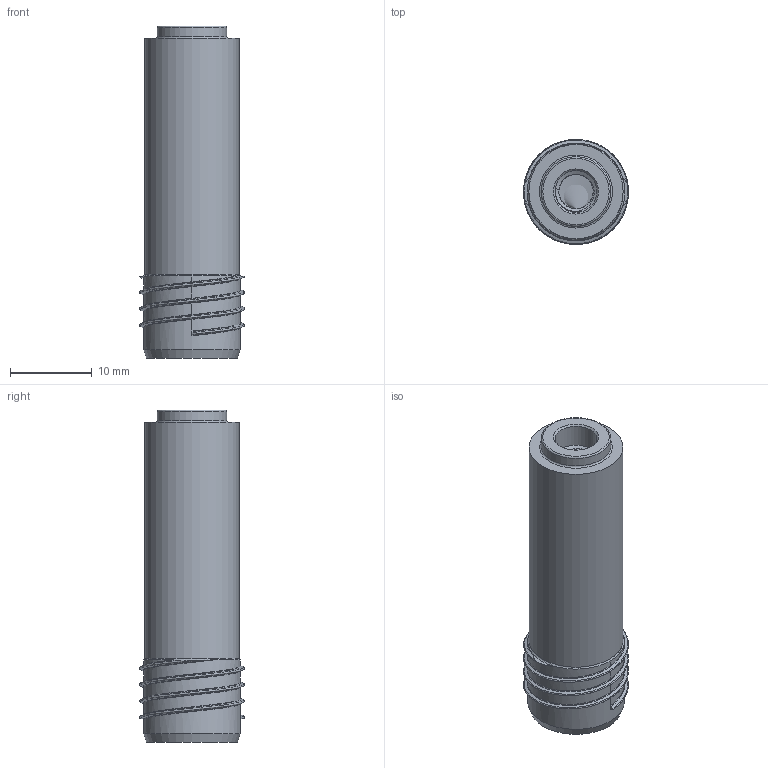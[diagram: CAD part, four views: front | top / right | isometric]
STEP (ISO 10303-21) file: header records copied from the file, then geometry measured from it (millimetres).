
FILE_DESCRIPTION(/* description */ (''),/* implementation_level */ '2;1');
FILE_NAME(/* name */ 'C:\Users\matthiask.LAMELLONET\Desktop\Invis_Mx2_Mittelwandbolzen_10-30mm.stp',/* time_stamp */ '2021-07-08T09:51:55+02:00',/* author */ ('matthiask'),/* organization */ (''),/* preprocessor_version */ 'ST-DEVELOPER v18',/* originating_system */ 'Autodesk Inventor 2020',/* authorisation */ '');
FILE_SCHEMA (('AUTOMOTIVE_DESIGN { 1 0 10303 214 3 1 1 }'));
Length unit declared in the file: millimetre
Products named in the file (1): Mittelwandbolzen
Bounding box: 12.8 x 12.8 x 40.5 mm (x, y, z)
Volume: 3912.5 mm3; surface area: 2095.3 mm2
Topology: 1 solids, 1 shells, 50 faces, 144 edges, 97 vertices
Faces by surface type: cylinder 22, bspline 13, plane 8, cone 4, torus 3
Full cylindrical faces by diameter (mm): 4.2 x13, 5.1 x1, 8.5 x1, 11.5 x1, 11.8 x3
Entity records: 6112 total; most frequent: CARTESIAN_POINT 4881, ORIENTED_EDGE 286, DIRECTION 197, EDGE_CURVE 143, VERTEX_POINT 97, AXIS2_PLACEMENT_3D 81, B_SPLINE_CURVE_WITH_KNOTS 65, EDGE_LOOP 52
